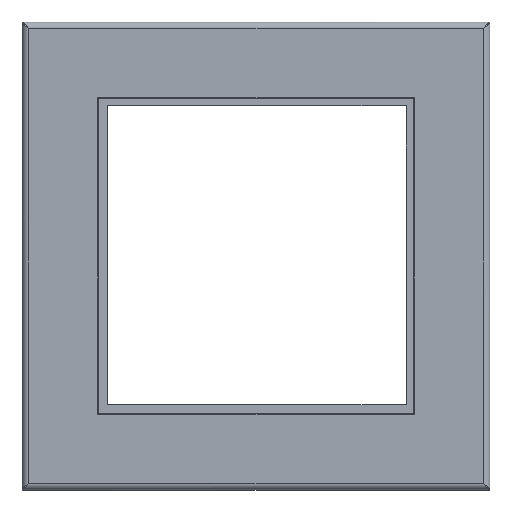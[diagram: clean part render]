
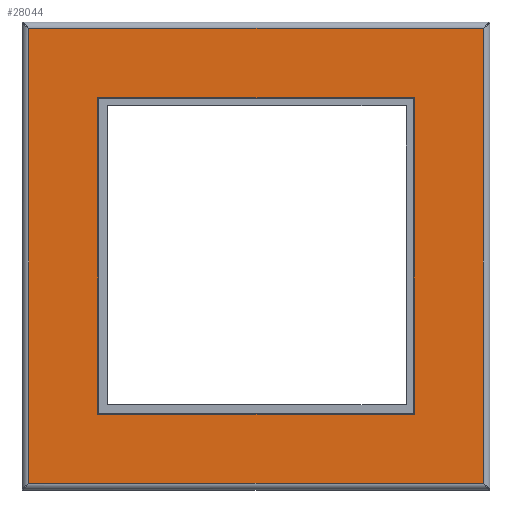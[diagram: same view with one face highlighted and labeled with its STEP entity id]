
A CAD part, top view. The second image highlights one B-rep face of the part: STEP entity #28044.
In plain terms, the highlighted planar face has unit normal (0, 0, 1).
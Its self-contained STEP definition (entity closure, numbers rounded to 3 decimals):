
#8209=DIRECTION('',(-1.,0.,0.));
#8210=VECTOR('',#8209,140.);
#8211=CARTESIAN_POINT('',(142.,142.,2.5));
#8212=LINE('',#8211,#8210);
#8248=DIRECTION('',(0.,1.,0.));
#8249=VECTOR('',#8248,140.);
#8250=CARTESIAN_POINT('',(142.,2.,2.5));
#8251=LINE('',#8250,#8249);
#8277=DIRECTION('',(1.,0.,0.));
#8278=VECTOR('',#8277,140.);
#8279=CARTESIAN_POINT('',(2.,2.,2.5));
#8280=LINE('',#8279,#8278);
#8296=DIRECTION('',(0.,-1.,0.));
#8297=VECTOR('',#8296,140.);
#8298=CARTESIAN_POINT('',(2.,142.,2.5));
#8299=LINE('',#8298,#8297);
#8306=DIRECTION('',(0.,1.,0.));
#8307=VECTOR('',#8306,97.288);
#8308=CARTESIAN_POINT('',(120.644,23.356,2.5));
#8309=LINE('',#8308,#8307);
#8310=DIRECTION('',(1.,0.,0.));
#8311=VECTOR('',#8310,97.288);
#8312=CARTESIAN_POINT('',(23.356,23.356,2.5));
#8313=LINE('',#8312,#8311);
#8330=DIRECTION('',(0.,1.,0.));
#8331=VECTOR('',#8330,97.288);
#8332=CARTESIAN_POINT('',(23.356,23.356,2.5));
#8333=LINE('',#8332,#8331);
#8346=DIRECTION('',(1.,0.,0.));
#8347=VECTOR('',#8346,97.288);
#8348=CARTESIAN_POINT('',(23.356,120.644,2.5));
#8349=LINE('',#8348,#8347);
#14429=CARTESIAN_POINT('',(23.356,23.356,2.5));
#14430=CARTESIAN_POINT('',(120.644,23.356,2.5));
#14431=VERTEX_POINT('',#14429);
#14432=VERTEX_POINT('',#14430);
#14433=CARTESIAN_POINT('',(120.644,120.644,2.5));
#14434=VERTEX_POINT('',#14433);
#14435=CARTESIAN_POINT('',(2.,142.,2.5));
#14436=CARTESIAN_POINT('',(2.,2.,2.5));
#14437=VERTEX_POINT('',#14435);
#14438=VERTEX_POINT('',#14436);
#14439=CARTESIAN_POINT('',(142.,142.,2.5));
#14440=VERTEX_POINT('',#14439);
#14441=CARTESIAN_POINT('',(142.,2.,2.5));
#14442=VERTEX_POINT('',#14441);
#14443=CARTESIAN_POINT('',(23.356,120.644,2.5));
#14444=VERTEX_POINT('',#14443);
#28023=CARTESIAN_POINT('',(72.,72.,2.5));
#28024=DIRECTION('',(0.,0.,1.));
#28025=DIRECTION('',(1.,0.,0.));
#28026=AXIS2_PLACEMENT_3D('',#28023,#28024,#28025);
#28027=PLANE('',#28026);
#28028=ORIENTED_EDGE('',*,*,#27853,.F.);
#28029=ORIENTED_EDGE('',*,*,#27318,.F.);
#28030=ORIENTED_EDGE('',*,*,#27499,.F.);
#28031=ORIENTED_EDGE('',*,*,#27677,.F.);
#28032=EDGE_LOOP('',(#28028,#28029,#28030,#28031));
#28033=FACE_OUTER_BOUND('',#28032,.F.);
#28035=ORIENTED_EDGE('',*,*,#28034,.T.);
#28037=ORIENTED_EDGE('',*,*,#28036,.F.);
#28039=ORIENTED_EDGE('',*,*,#28038,.F.);
#28041=ORIENTED_EDGE('',*,*,#28040,.T.);
#28042=EDGE_LOOP('',(#28035,#28037,#28039,#28041));
#28043=FACE_BOUND('',#28042,.F.);
#27318=EDGE_CURVE('',#14440,#14437,#8212,.T.);
#27499=EDGE_CURVE('',#14442,#14440,#8251,.T.);
#27677=EDGE_CURVE('',#14438,#14442,#8280,.T.);
#27853=EDGE_CURVE('',#14437,#14438,#8299,.T.);
#28034=EDGE_CURVE('',#14432,#14434,#8309,.T.);
#28036=EDGE_CURVE('',#14444,#14434,#8349,.T.);
#28038=EDGE_CURVE('',#14431,#14444,#8333,.T.);
#28040=EDGE_CURVE('',#14431,#14432,#8313,.T.);
#28044=ADVANCED_FACE('',(#28033,#28043),#28027,.T.);
